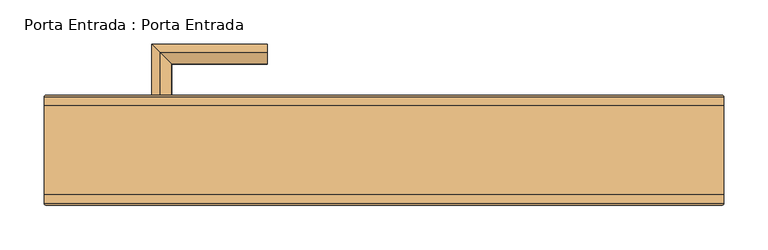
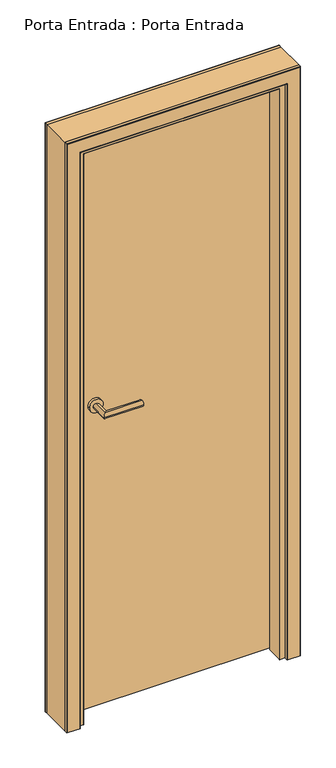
"""IFC4 building model written with IfcOpenShell, lengths in millimetres: door geometry, Porta Entrada : Porta Entrada."""

from ifc_helpers import new_model, si_unit, point, frame, frame_2d, origin, place, context, project, spatial, polyline, circle_curve, ellipse_curve, trimmed, segment, composite_curve, outline, extrude, source, transform, mapped, element, save
from ifc_brep_helpers import plane_surface, cylinder_surface, advanced_brep


def porta_entrada_porta_entrada_e29db034(model_context):
    return source(origin(), model_context, "Body", "SolidModel", [
        extrude(outline(composite_curve([segment(trimmed(circle_curve(frame_2d((1050.0, -251.4999348)), 22.5), [point((1050.0, -228.9999348))], [point((1050.0, -273.9999348))], False, "CARTESIAN"), True, "CONTINUOUS"), segment(trimmed(circle_curve(frame_2d((1050.0, -251.4999348)), 22.5), [point((1050.0, -273.9999348))], [point((1050.0, -228.9999348))], False, "CARTESIAN"), True, "CONTINUOUS")], self_intersect=False)), frame((0.0, 0.0210041, 0.0), z_axis=(0.0, 1.0, 0.0), x_axis=(0.0, 0.0, 1.0)), (0.0, 0.0, 1.0), 9.0),
        advanced_brep(
        [(-262.3121844, 0.0210041, 1050.0), (-253.5621844, 0.0210041, 1059.0214197), (-240.2883371, 0.0210041, 1051.6217874), (-240.2883371, 0.0210041, 1048.3782126), (-253.5621844, 0.0210041, 1040.9785803), (-262.3121844, -61.6703659, 1050.0), (-253.5621844, -52.9203659, 1059.0214197), (-253.5621844, -52.9203659, 1040.9785803), (-131.7133302, -61.6703659, 1050.0), (-131.7133302, -52.9203659, 1040.9785803), (-131.7133302, -39.6465185, 1048.3782126), (-131.7133302, -39.6465185, 1051.6217874), (-131.7133302, -52.9203659, 1059.0214197), (-240.2883371, -39.6465185, 1048.3782126), (-240.2883371, -39.6465185, 1051.6217874)],
        [
            (0, 1, circle_curve(frame((-253.2865551, 0.0210041, 1050.0), z_axis=(0.0, 1.0, 0.0), x_axis=(-1.0, 0.0, 0.0)), 9.0256293)),
            (1, 2, circle_curve(frame((-253.1101677, 0.0210041, 1044.2267939), z_axis=(0.0, 1.0, 0.0), x_axis=(-1.0, 0.0, 0.0)), 14.8015293)),
            (2, 3, circle_curve(frame((-243.1002778, 0.0210041, 1050.0), z_axis=(0.0, 1.0, 0.0), x_axis=(-1.0, 0.0, 0.0)), 3.2461062)),
            (3, 4, circle_curve(frame((-253.1101677, 0.0210041, 1055.7732061), z_axis=(0.0, 1.0, 0.0), x_axis=(-1.0, 0.0, 0.0)), 14.8015293)),
            (4, 0, circle_curve(frame((-253.2865551, 0.0210041, 1050.0), z_axis=(0.0, 1.0, 0.0), x_axis=(-1.0, 0.0, 0.0)), 9.0256293)),
            (0, 5),
            (5, 6, ellipse_curve(frame((-253.2865551, -52.6447366, 1050.0), z_axis=(-0.7071067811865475, 0.7071067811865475, 0.0), x_axis=(0.7071067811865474, 0.7071067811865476, 0.0)), 12.7641674, 9.0256293)),
            (6, 1),
            (4, 7),
            (7, 5, ellipse_curve(frame((-253.2865551, -52.6447366, 1050.0), z_axis=(-0.7071067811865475, 0.7071067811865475, 0.0), x_axis=(0.7071067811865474, 0.7071067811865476, 0.0)), 12.7641674, 9.0256293)),
            (8, 9, circle_curve(frame((-131.7133302, -52.6447366, 1050.0), z_axis=(1.0, 0.0, 0.0), x_axis=(0.0, -1.0, 0.0)), 9.0256293)),
            (9, 10, circle_curve(frame((-131.7133302, -52.4683492, 1055.7732061), z_axis=(1.0, 0.0, 0.0), x_axis=(0.0, -1.0, 0.0)), 14.8015293)),
            (10, 11, circle_curve(frame((-131.7133302, -42.4584593, 1050.0), z_axis=(1.0, 0.0, 0.0), x_axis=(0.0, -1.0, 0.0)), 3.2461062)),
            (11, 12, circle_curve(frame((-131.7133302, -52.4683492, 1044.2267939), z_axis=(1.0, 0.0, 0.0), x_axis=(0.0, -1.0, 0.0)), 14.8015293)),
            (12, 8, circle_curve(frame((-131.7133302, -52.6447366, 1050.0), z_axis=(1.0, 0.0, 0.0), x_axis=(0.0, -1.0, 0.0)), 9.0256293)),
            (5, 8),
            (12, 6),
            (7, 9),
            (3, 13),
            (13, 7, ellipse_curve(frame((-253.1101677, -52.4683492, 1055.7732061), z_axis=(-0.7071067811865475, 0.7071067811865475, 0.0), x_axis=(0.7071067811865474, 0.7071067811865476, 0.0)), 20.9325235, 14.8015293)),
            (2, 14),
            (14, 13, ellipse_curve(frame((-243.1002778, -42.4584593, 1050.0), z_axis=(-0.7071067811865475, 0.7071067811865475, 0.0), x_axis=(0.7071067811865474, 0.7071067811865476, 0.0)), 4.5906874, 3.2461062)),
            (6, 14, ellipse_curve(frame((-253.1101677, -52.4683492, 1044.2267939), z_axis=(-0.7071067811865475, 0.7071067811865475, 0.0), x_axis=(0.7071067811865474, 0.7071067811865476, 0.0)), 20.9325235, 14.8015293)),
            (13, 10),
            (14, 11),
        ],
        [
            plane_surface(frame((-251.4999348, 0.0210041, 1050.0), z_axis=(0.0, 1.0, 0.0), x_axis=(0.0, 0.0, 1.0))),
            cylinder_surface(frame((-253.2865551, 0.0210041, 1050.0), z_axis=(0.0, 1.0, 0.0), x_axis=(-1.0, 0.0, 0.0)), 9.0256293),
            plane_surface(frame((-131.7133302, -50.8581162, 1050.0), z_axis=(1.0, 0.0, 0.0), x_axis=(0.0, 0.0, 1.0))),
            cylinder_surface(frame((-251.4999348, -52.6447366, 1050.0), z_axis=(-1.0, 0.0, 0.0), x_axis=(0.0, -1.0, 0.0)), 9.0256293),
            cylinder_surface(frame((-253.1101677, 0.0210041, 1055.7732061), z_axis=(0.0, 1.0, 0.0), x_axis=(-1.0, 0.0, 0.0)), 14.8015293),
            cylinder_surface(frame((-243.1002778, 0.0210041, 1050.0), z_axis=(0.0, 1.0, 0.0), x_axis=(-1.0, 0.0, 0.0)), 3.2461062),
            cylinder_surface(frame((-253.1101677, 0.0210041, 1044.2267939), z_axis=(0.0, 1.0, 0.0), x_axis=(-1.0, 0.0, 0.0)), 14.8015293),
            cylinder_surface(frame((-251.4999348, -52.4683492, 1055.7732061), z_axis=(-1.0, 0.0, 0.0), x_axis=(0.0, -1.0, 0.0)), 14.8015293),
            cylinder_surface(frame((-251.4999348, -42.4584593, 1050.0), z_axis=(-1.0, 0.0, 0.0), x_axis=(0.0, -1.0, 0.0)), 3.2461062),
            cylinder_surface(frame((-251.4999348, -52.4683492, 1044.2267939), z_axis=(-1.0, 0.0, 0.0), x_axis=(0.0, -1.0, 0.0)), 14.8015293),
        ],
        [
            (0, [[1, 2, 3, 4, 5]]),
            (1, [[6, 7, 8, -1]]),
            (1, [[9, 10, -6, -5]]),
            (2, [[11, 12, 13, 14, 15]]),
            (3, [[16, -15, 17, -7]]),
            (3, [[18, -11, -16, -10]]),
            (4, [[19, 20, -9, -4]]),
            (5, [[21, 22, -19, -3]]),
            (6, [[-8, 23, -21, -2]]),
            (7, [[24, -12, -18, -20]]),
            (8, [[25, -13, -24, -22]]),
            (9, [[-17, -14, -25, -23]]),
        ],
    ),
        extrude(outline(composite_curve([segment(trimmed(circle_curve(frame_2d((1050.0, -251.4999348)), 22.5), [point((1050.0, -228.9999348))], [point((1050.0, -273.9999348))], False, "CARTESIAN"), True, "CONTINUOUS"), segment(trimmed(circle_curve(frame_2d((1050.0, -251.4999348)), 22.5), [point((1050.0, -273.9999348))], [point((1050.0, -228.9999348))], False, "CARTESIAN"), True, "CONTINUOUS")], self_intersect=False)), frame((0.0, 49.0195713, 0.0), z_axis=(0.0, 1.0, 0.0), x_axis=(0.0, 0.0, 1.0)), (0.0, 0.0, 1.0), 9.0),
        advanced_brep(
        [(-262.3121844, 58.0195713, 1050.0), (-253.5621844, 58.0195713, 1040.9785803), (-240.2883371, 58.0195713, 1048.3782126), (-240.2883371, 58.0195713, 1051.6217874), (-253.5621844, 58.0195713, 1059.0214197), (-262.3121844, 119.7109413, 1050.0), (-253.5621844, 110.9609413, 1040.9785803), (-253.5621844, 110.9609413, 1059.0214197), (-131.7133302, 119.7109413, 1050.0), (-131.7133302, 110.9609413, 1059.0214197), (-131.7133302, 97.6870939, 1051.6217874), (-131.7133302, 97.6870939, 1048.3782126), (-131.7133302, 110.9609413, 1040.9785803), (-240.2883371, 97.6870939, 1051.6217874), (-240.2883371, 97.6870939, 1048.3782126)],
        [
            (0, 1, circle_curve(frame((-253.2865551, 58.0195713, 1050.0), z_axis=(0.0, -1.0, 0.0), x_axis=(-1.0, 0.0, 0.0)), 9.0256293)),
            (1, 2, circle_curve(frame((-253.1101677, 58.0195713, 1055.7732061), z_axis=(0.0, -1.0, 0.0), x_axis=(-1.0, 0.0, 0.0)), 14.8015293)),
            (2, 3, circle_curve(frame((-243.1002778, 58.0195713, 1050.0), z_axis=(0.0, -1.0, 0.0), x_axis=(-1.0, 0.0, 0.0)), 3.2461062)),
            (3, 4, circle_curve(frame((-253.1101677, 58.0195713, 1044.2267939), z_axis=(0.0, -1.0, 0.0), x_axis=(-1.0, 0.0, 0.0)), 14.8015293)),
            (4, 0, circle_curve(frame((-253.2865551, 58.0195713, 1050.0), z_axis=(0.0, -1.0, 0.0), x_axis=(-1.0, 0.0, 0.0)), 9.0256293)),
            (0, 5),
            (5, 6, ellipse_curve(frame((-253.2865551, 110.685312, 1050.0), z_axis=(-0.7071067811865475, -0.7071067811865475, 0.0), x_axis=(0.7071067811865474, -0.7071067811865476, 0.0)), 12.7641674, 9.0256293)),
            (6, 1),
            (4, 7),
            (7, 5, ellipse_curve(frame((-253.2865551, 110.685312, 1050.0), z_axis=(-0.7071067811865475, -0.7071067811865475, 0.0), x_axis=(0.7071067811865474, -0.7071067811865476, 0.0)), 12.7641674, 9.0256293)),
            (8, 9, circle_curve(frame((-131.7133302, 110.685312, 1050.0), z_axis=(1.0, 0.0, 0.0), x_axis=(0.0, 1.0, 0.0)), 9.0256293)),
            (9, 10, circle_curve(frame((-131.7133302, 110.5089246, 1044.2267939), z_axis=(1.0, 0.0, 0.0), x_axis=(0.0, 1.0, 0.0)), 14.8015293)),
            (10, 11, circle_curve(frame((-131.7133302, 100.4990347, 1050.0), z_axis=(1.0, 0.0, 0.0), x_axis=(0.0, 1.0, 0.0)), 3.2461062)),
            (11, 12, circle_curve(frame((-131.7133302, 110.5089246, 1055.7732061), z_axis=(1.0, 0.0, 0.0), x_axis=(0.0, 1.0, 0.0)), 14.8015293)),
            (12, 8, circle_curve(frame((-131.7133302, 110.685312, 1050.0), z_axis=(1.0, 0.0, 0.0), x_axis=(0.0, 1.0, 0.0)), 9.0256293)),
            (5, 8),
            (12, 6),
            (7, 9),
            (3, 13),
            (13, 7, ellipse_curve(frame((-253.1101677, 110.5089246, 1044.2267939), z_axis=(-0.7071067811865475, -0.7071067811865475, 0.0), x_axis=(0.7071067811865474, -0.7071067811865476, 0.0)), 20.9325235, 14.8015293)),
            (2, 14),
            (14, 13, ellipse_curve(frame((-243.1002778, 100.4990347, 1050.0), z_axis=(-0.7071067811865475, -0.7071067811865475, 0.0), x_axis=(0.7071067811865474, -0.7071067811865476, 0.0)), 4.5906874, 3.2461062)),
            (6, 14, ellipse_curve(frame((-253.1101677, 110.5089246, 1055.7732061), z_axis=(-0.7071067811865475, -0.7071067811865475, 0.0), x_axis=(0.7071067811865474, -0.7071067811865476, 0.0)), 20.9325235, 14.8015293)),
            (13, 10),
            (14, 11),
        ],
        [
            plane_surface(frame((-251.4999348, 58.0195713, 1050.0), z_axis=(0.0, -1.0, 0.0), x_axis=(0.0, 0.0, -1.0))),
            cylinder_surface(frame((-253.2865551, 58.0195713, 1050.0), z_axis=(0.0, -1.0, 0.0), x_axis=(-1.0, 0.0, 0.0)), 9.0256293),
            plane_surface(frame((-131.7133302, 108.8986916, 1050.0), z_axis=(1.0, 0.0, 0.0), x_axis=(0.0, 0.0, -1.0))),
            cylinder_surface(frame((-251.4999348, 110.685312, 1050.0), z_axis=(-1.0, 0.0, 0.0), x_axis=(0.0, 1.0, 0.0)), 9.0256293),
            cylinder_surface(frame((-253.1101677, 58.0195713, 1044.2267939), z_axis=(0.0, -1.0, 0.0), x_axis=(-1.0, 0.0, 0.0)), 14.8015293),
            cylinder_surface(frame((-243.1002778, 58.0195713, 1050.0), z_axis=(0.0, -1.0, 0.0), x_axis=(-1.0, 0.0, 0.0)), 3.2461062),
            cylinder_surface(frame((-253.1101677, 58.0195713, 1055.7732061), z_axis=(0.0, -1.0, 0.0), x_axis=(-1.0, 0.0, 0.0)), 14.8015293),
            cylinder_surface(frame((-251.4999348, 110.5089246, 1044.2267939), z_axis=(-1.0, 0.0, 0.0), x_axis=(0.0, 1.0, 0.0)), 14.8015293),
            cylinder_surface(frame((-251.4999348, 100.4990347, 1050.0), z_axis=(-1.0, 0.0, 0.0), x_axis=(0.0, 1.0, 0.0)), 3.2461062),
            cylinder_surface(frame((-251.4999348, 110.5089246, 1055.7732061), z_axis=(-1.0, 0.0, 0.0), x_axis=(0.0, 1.0, 0.0)), 14.8015293),
        ],
        [
            (0, [[1, 2, 3, 4, 5]]),
            (1, [[6, 7, 8, -1]]),
            (1, [[9, 10, -6, -5]]),
            (2, [[11, 12, 13, 14, 15]]),
            (3, [[16, -15, 17, -7]]),
            (3, [[18, -11, -16, -10]]),
            (4, [[19, 20, -9, -4]]),
            (5, [[21, 22, -19, -3]]),
            (6, [[-8, 23, -21, -2]]),
            (7, [[24, -12, -18, -20]]),
            (8, [[25, -13, -24, -22]]),
            (9, [[-17, -14, -25, -23]]),
        ],
    ),
        extrude(outline(polyline([(0.0, -350.0), (2006.5, -350.0), (2006.5, 350.0), (0.0, 350.0), (0.0, 384.0009959), (2040.5009959, 384.0009959), (2040.5009959, -384.0009959), (0.0, -384.0009959), (0.0, -350.0)])), frame((0.0, -50.0, 0.0), z_axis=(0.0, 1.0, 0.0), x_axis=(0.0, 0.0, 1.0)), (0.0, 0.0, 1.0), 100.0),
        extrude(outline(polyline([(328.2381716, 9.0210041), (-328.2381716, 9.0210041), (-328.729808, 9.8139325), (-329.9347489, 48.1557733), (-329.4715845, 49.0195713), (329.4715845, 49.0195713), (329.9347489, 48.1557733), (328.729808, 9.8139325), (328.2381716, 9.0210041)])), frame((0.0, 0.0, 4.5068497), z_axis=(0.0, 0.0, 1.0), x_axis=(1.0, 0.0, 0.0)), (0.0, 0.0, 1.0), 1976.0133601),
        advanced_brep(
        [(-350.0, 50.0, 0.0), (-384.0000121, 50.0, 0.0), (-384.0000121, 60.2, 0.0), (-382.2000121, 62.0, 0.0), (-340.8000121, 62.0, 0.0), (-339.0000121, 60.2, 0.0), (-339.0000121, 50.0, 0.0), (-333.500507, 50.0, 0.0), (-332.001079, 48.4585793, 0.0), (-332.001079, 6.0, 0.0), (-321.4999348, 6.0, 0.0), (-321.4999348, -48.5, 0.0), (-322.9999348, -50.0, 0.0), (-339.0000121, -50.0, 0.0), (-339.0000121, -60.2, 0.0), (-340.8000121, -62.0, 0.0), (-382.2000121, -62.0, 0.0), (-384.0000121, -60.2, 0.0), (-384.0000121, -50.0, 0.0), (-350.0, -50.0, 0.0), (-350.0, -50.0, 2006.5), (-350.0, 50.0, 2006.5), (-384.0000121, -50.0, 2040.5000121), (384.0000121, -50.0, 2040.5000121), (384.0000121, -50.0, 0.0), (350.0, -50.0, 0.0), (350.0, -50.0, 2006.5), (-384.0000121, -60.2, 2040.5000121), (-382.2000121, -62.0, 2038.7000121), (-340.8000121, -62.0, 1997.3000121), (340.8000121, -62.0, 1997.3000121), (340.8000121, -62.0, 0.0), (382.2000121, -62.0, 0.0), (382.2000121, -62.0, 2038.7000121), (-339.0000121, -60.2, 1995.5000121), (-339.0000121, -50.0, 1995.5000121), (-322.9999348, -50.0, 1979.4999348), (322.9999348, -50.0, 1979.4999348), (322.9999348, -50.0, 0.0), (339.0000121, -50.0, 0.0), (339.0000121, -50.0, 1995.5000121), (-321.4999348, -48.5, 1977.9999348), (-321.4999348, 6.0, 1977.9999348), (-332.001079, 6.0, 1988.501079), (332.001079, 6.0, 1988.501079), (332.001079, 6.0, 0.0), (321.4999348, 6.0, 0.0), (321.4999348, 6.0, 1977.9999348), (-332.001079, 48.4585793, 1988.501079), (-333.500507, 50.0, 1990.000507), (-339.0000121, 50.0, 1995.5000121), (339.0000121, 50.0, 1995.5000121), (339.0000121, 50.0, 0.0), (333.500507, 50.0, 0.0), (333.500507, 50.0, 1990.000507), (-339.0000121, 60.2, 1995.5000121), (-340.8000121, 62.0, 1997.3000121), (-382.2000121, 62.0, 2038.7000121), (382.2000121, 62.0, 2038.7000121), (382.2000121, 62.0, 0.0), (340.8000121, 62.0, 0.0), (340.8000121, 62.0, 1997.3000121), (-384.0000121, 60.2, 2040.5000121), (-384.0000121, 50.0, 2040.5000121), (350.0, 50.0, 2006.5), (350.0, 50.0, 0.0), (384.0000121, 50.0, 0.0), (384.0000121, 50.0, 2040.5000121), (384.0000121, -60.2, 0.0), (339.0000121, -60.2, 0.0), (321.4999348, -48.5, 0.0), (332.001079, 48.4585793, 0.0), (339.0000121, 60.2, 0.0), (384.0000121, 60.2, 0.0), (384.0000121, 60.2, 2040.5000121), (339.0000121, 60.2, 1995.5000121), (332.001079, 48.4585793, 1988.501079), (321.4999348, -48.5, 1977.9999348), (339.0000121, -60.2, 1995.5000121), (384.0000121, -60.2, 2040.5000121)],
        [
            (0, 1),
            (1, 2),
            (2, 3, circle_curve(frame((-382.2000121, 60.2, 0.0), z_axis=(0.0, 0.0, -1.0), x_axis=(-1.0, 0.0, 0.0)), 1.8)),
            (3, 4),
            (4, 5, circle_curve(frame((-340.8000121, 60.2, 0.0), z_axis=(0.0, 0.0, -1.0), x_axis=(-1.0, 0.0, 0.0)), 1.8)),
            (5, 6),
            (6, 7),
            (7, 8, circle_curve(frame((-333.500507, 48.5, 0.0), z_axis=(0.0, 0.0, -1.0), x_axis=(-1.0, 0.0, 0.0)), 1.5)),
            (8, 9),
            (9, 10),
            (10, 11),
            (11, 12, circle_curve(frame((-322.9999348, -48.5, 0.0), z_axis=(0.0, 0.0, -1.0), x_axis=(-1.0, 0.0, 0.0)), 1.5)),
            (12, 13),
            (13, 14),
            (14, 15, circle_curve(frame((-340.8000121, -60.2, 0.0), z_axis=(0.0, 0.0, -1.0), x_axis=(-1.0, 0.0, 0.0)), 1.8)),
            (15, 16),
            (16, 17, circle_curve(frame((-382.2000121, -60.2, 0.0), z_axis=(0.0, 0.0, -1.0), x_axis=(-1.0, 0.0, 0.0)), 1.8)),
            (17, 18),
            (18, 19),
            (19, 0),
            (19, 20),
            (20, 21),
            (21, 0),
            (18, 22),
            (22, 23),
            (23, 24),
            (24, 25),
            (25, 26),
            (26, 20),
            (17, 27),
            (27, 22),
            (16, 28),
            (28, 27, ellipse_curve(frame((-382.2000121, -60.2, 2038.7000121), z_axis=(-0.7071067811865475, 0.0, -0.7071067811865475), x_axis=(0.7071067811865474, 0.0, -0.7071067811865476)), 2.5455844, 1.8)),
            (15, 29),
            (29, 30),
            (30, 31),
            (31, 32),
            (32, 33),
            (33, 28),
            (14, 34),
            (34, 29, ellipse_curve(frame((-340.8000121, -60.2, 1997.3000121), z_axis=(-0.7071067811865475, 0.0, -0.7071067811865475), x_axis=(0.7071067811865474, 0.0, -0.7071067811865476)), 2.5455844, 1.8)),
            (13, 35),
            (35, 34),
            (12, 36),
            (36, 37),
            (37, 38),
            (38, 39),
            (39, 40),
            (40, 35),
            (11, 41),
            (41, 36, ellipse_curve(frame((-322.9999348, -48.5, 1979.4999348), z_axis=(-0.7071067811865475, 0.0, -0.7071067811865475), x_axis=(0.7071067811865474, 0.0, -0.7071067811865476)), 2.1213203, 1.5)),
            (10, 42),
            (42, 41),
            (9, 43),
            (43, 44),
            (44, 45),
            (45, 46),
            (46, 47),
            (47, 42),
            (8, 48),
            (48, 43),
            (7, 49),
            (49, 48, ellipse_curve(frame((-333.500507, 48.5, 1990.000507), z_axis=(-0.7071067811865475, 0.0, -0.7071067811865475), x_axis=(0.7071067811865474, 0.0, -0.7071067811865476)), 2.1213203, 1.5)),
            (6, 50),
            (50, 51),
            (51, 52),
            (52, 53),
            (53, 54),
            (54, 49),
            (5, 55),
            (55, 50),
            (4, 56),
            (56, 55, ellipse_curve(frame((-340.8000121, 60.2, 1997.3000121), z_axis=(-0.7071067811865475, 0.0, -0.7071067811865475), x_axis=(0.7071067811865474, 0.0, -0.7071067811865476)), 2.5455844, 1.8)),
            (3, 57),
            (57, 58),
            (58, 59),
            (59, 60),
            (60, 61),
            (61, 56),
            (2, 62),
            (62, 57, ellipse_curve(frame((-382.2000121, 60.2, 2038.7000121), z_axis=(-0.7071067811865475, 0.0, -0.7071067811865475), x_axis=(0.7071067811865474, 0.0, -0.7071067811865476)), 2.5455844, 1.8)),
            (1, 63),
            (63, 62),
            (21, 64),
            (64, 65),
            (65, 66),
            (66, 67),
            (67, 63),
            (65, 25),
            (24, 68),
            (68, 32, circle_curve(frame((382.2000121, -60.2, 0.0), z_axis=(0.0, 0.0, -1.0), x_axis=(1.0, 0.0, 0.0)), 1.8)),
            (31, 69, circle_curve(frame((340.8000121, -60.2, 0.0), z_axis=(0.0, 0.0, -1.0), x_axis=(1.0, 0.0, 0.0)), 1.8)),
            (69, 39),
            (38, 70, circle_curve(frame((322.9999348, -48.5, 0.0), z_axis=(0.0, 0.0, -1.0), x_axis=(1.0, 0.0, 0.0)), 1.5)),
            (70, 46),
            (45, 71),
            (71, 53, circle_curve(frame((333.500507, 48.5, 0.0), z_axis=(0.0, 0.0, -1.0), x_axis=(1.0, 0.0, 0.0)), 1.5)),
            (52, 72),
            (72, 60, circle_curve(frame((340.8000121, 60.2, 0.0), z_axis=(0.0, 0.0, -1.0), x_axis=(1.0, 0.0, 0.0)), 1.8)),
            (59, 73, circle_curve(frame((382.2000121, 60.2, 0.0), z_axis=(0.0, 0.0, -1.0), x_axis=(1.0, 0.0, 0.0)), 1.8)),
            (73, 66),
            (73, 74),
            (74, 67),
            (58, 74, ellipse_curve(frame((382.2000121, 60.2, 2038.7000121), z_axis=(0.7071067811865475, 0.0, -0.7071067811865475), x_axis=(0.7071067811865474, 0.0, 0.7071067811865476)), 2.5455844, 1.8)),
            (72, 75),
            (75, 61, ellipse_curve(frame((340.8000121, 60.2, 1997.3000121), z_axis=(0.7071067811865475, 0.0, -0.7071067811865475), x_axis=(0.7071067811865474, 0.0, 0.7071067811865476)), 2.5455844, 1.8)),
            (51, 75),
            (71, 76),
            (76, 54, ellipse_curve(frame((333.500507, 48.5, 1990.000507), z_axis=(0.7071067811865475, 0.0, -0.7071067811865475), x_axis=(0.7071067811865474, 0.0, 0.7071067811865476)), 2.1213203, 1.5)),
            (44, 76),
            (70, 77),
            (77, 47),
            (37, 77, ellipse_curve(frame((322.9999348, -48.5, 1979.4999348), z_axis=(0.7071067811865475, 0.0, -0.7071067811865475), x_axis=(0.7071067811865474, 0.0, 0.7071067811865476)), 2.1213203, 1.5)),
            (69, 78),
            (78, 40),
            (30, 78, ellipse_curve(frame((340.8000121, -60.2, 1997.3000121), z_axis=(0.7071067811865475, 0.0, -0.7071067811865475), x_axis=(0.7071067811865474, 0.0, 0.7071067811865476)), 2.5455844, 1.8)),
            (68, 79),
            (79, 33, ellipse_curve(frame((382.2000121, -60.2, 2038.7000121), z_axis=(0.7071067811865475, 0.0, -0.7071067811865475), x_axis=(0.7071067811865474, 0.0, 0.7071067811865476)), 2.5455844, 1.8)),
            (23, 79),
            (64, 26),
            (41, 77),
            (48, 76),
            (27, 79),
            (34, 78),
            (55, 75),
            (62, 74),
        ],
        [
            plane_surface(frame((-384.0009959, 50.0, 0.0), z_axis=(0.0, 0.0, -1.0), x_axis=(0.0, 1.0, 0.0))),
            plane_surface(frame((-350.0, 50.0, 0.0), z_axis=(-1.0, 0.0, 0.0), x_axis=(0.0, 0.0, 1.0))),
            plane_surface(frame((-350.0, -50.0, 0.0), z_axis=(0.0, 1.0, 0.0), x_axis=(0.0, 0.0, 1.0))),
            plane_surface(frame((-384.0000121, -50.0, 0.0), z_axis=(-1.0, 0.0, 0.0), x_axis=(0.0, 0.0, 1.0))),
            cylinder_surface(frame((-382.2000121, -60.2, 0.0), z_axis=(0.0, 0.0, -1.0), x_axis=(-1.0, 0.0, 0.0)), 1.8),
            plane_surface(frame((-382.2000121, -62.0, 0.0), z_axis=(0.0, -1.0, 0.0), x_axis=(0.0, 0.0, 1.0))),
            cylinder_surface(frame((-340.8000121, -60.2, 0.0), z_axis=(0.0, 0.0, -1.0), x_axis=(-1.0, 0.0, 0.0)), 1.8),
            plane_surface(frame((-339.0000121, -60.2, 0.0), z_axis=(1.0, 0.0, 0.0), x_axis=(0.0, 0.0, 1.0))),
            plane_surface(frame((-339.0000121, -50.0, 0.0), z_axis=(0.0, -1.0, 0.0), x_axis=(0.0, 0.0, 1.0))),
            cylinder_surface(frame((-322.9999348, -48.5, 0.0), z_axis=(0.0, 0.0, -1.0), x_axis=(-1.0, 0.0, 0.0)), 1.5),
            plane_surface(frame((-321.4999348, -48.5, 0.0), z_axis=(1.0, 0.0, 0.0), x_axis=(0.0, 0.0, 1.0))),
            plane_surface(frame((-321.4999348, 6.0, 0.0), z_axis=(0.0, 1.0, 0.0), x_axis=(0.0, 0.0, 1.0))),
            plane_surface(frame((-332.001079, 6.0, 0.0), z_axis=(1.0, 0.0, 0.0), x_axis=(0.0, 0.0, 1.0))),
            cylinder_surface(frame((-333.500507, 48.5, 0.0), z_axis=(0.0, 0.0, -1.0), x_axis=(-1.0, 0.0, 0.0)), 1.5),
            plane_surface(frame((-333.500507, 50.0, 0.0), z_axis=(0.0, 1.0, 0.0), x_axis=(0.0, 0.0, 1.0))),
            plane_surface(frame((-339.0000121, 50.0, 0.0), z_axis=(1.0, 0.0, 0.0), x_axis=(0.0, 0.0, 1.0))),
            cylinder_surface(frame((-340.8000121, 60.2, 0.0), z_axis=(0.0, 0.0, -1.0), x_axis=(-1.0, 0.0, 0.0)), 1.8),
            plane_surface(frame((-340.8000121, 62.0, 0.0), z_axis=(0.0, 1.0, 0.0), x_axis=(0.0, 0.0, 1.0))),
            cylinder_surface(frame((-382.2000121, 60.2, 0.0), z_axis=(0.0, 0.0, -1.0), x_axis=(-1.0, 0.0, 0.0)), 1.8),
            plane_surface(frame((-384.0000121, 60.2, 0.0), z_axis=(-1.0, 0.0, 0.0), x_axis=(0.0, 0.0, 1.0))),
            plane_surface(frame((-384.0000121, 50.0, 0.0), z_axis=(0.0, -1.0, 0.0), x_axis=(0.0, 0.0, 1.0))),
            plane_surface(frame((384.0009959, 50.0, 0.0), z_axis=(0.0, 0.0, -1.0), x_axis=(0.0, 1.0, 0.0))),
            plane_surface(frame((384.0000121, 60.2, 2040.5000121), z_axis=(1.0, 0.0, 0.0), x_axis=(0.0, 0.0, -1.0))),
            cylinder_surface(frame((382.2000121, 60.2, 2040.5009959), z_axis=(0.0, 0.0, 1.0), x_axis=(1.0, 0.0, 0.0)), 1.8),
            cylinder_surface(frame((340.8000121, 60.2, 2040.5009959), z_axis=(0.0, 0.0, 1.0), x_axis=(1.0, 0.0, 0.0)), 1.8),
            plane_surface(frame((339.0000121, 50.0, 1995.5000121), z_axis=(-1.0, 0.0, 0.0), x_axis=(0.0, 0.0, -1.0))),
            cylinder_surface(frame((333.500507, 48.5, 2040.5009959), z_axis=(0.0, 0.0, 1.0), x_axis=(1.0, 0.0, 0.0)), 1.5),
            plane_surface(frame((332.001079, 6.0, 1988.501079), z_axis=(-1.0, 0.0, 0.0), x_axis=(0.0, 0.0, -1.0))),
            plane_surface(frame((321.4999348, -48.5, 1977.9999348), z_axis=(-1.0, 0.0, 0.0), x_axis=(0.0, 0.0, -1.0))),
            cylinder_surface(frame((322.9999348, -48.5, 2040.5009959), z_axis=(0.0, 0.0, 1.0), x_axis=(1.0, 0.0, 0.0)), 1.5),
            plane_surface(frame((339.0000121, -60.2, 1995.5000121), z_axis=(-1.0, 0.0, 0.0), x_axis=(0.0, 0.0, -1.0))),
            cylinder_surface(frame((340.8000121, -60.2, 2040.5009959), z_axis=(0.0, 0.0, 1.0), x_axis=(1.0, 0.0, 0.0)), 1.8),
            cylinder_surface(frame((382.2000121, -60.2, 2040.5009959), z_axis=(0.0, 0.0, 1.0), x_axis=(1.0, 0.0, 0.0)), 1.8),
            plane_surface(frame((384.0000121, -50.0, 2040.5000121), z_axis=(1.0, 0.0, 0.0), x_axis=(0.0, 0.0, -1.0))),
            plane_surface(frame((350.0, 50.0, 2006.5), z_axis=(1.0, 0.0, 0.0), x_axis=(0.0, 0.0, -1.0))),
            cylinder_surface(frame((-384.0009959, -48.5, 1979.4999348), z_axis=(-1.0, 0.0, 0.0), x_axis=(0.0, 0.0, 1.0)), 1.5),
            plane_surface(frame((-321.4999348, -48.5, 1977.9999348), z_axis=(0.0, 0.0, -1.0), x_axis=(1.0, 0.0, 0.0))),
            plane_surface(frame((-332.001079, 6.0, 1988.501079), z_axis=(0.0, 0.0, -1.0), x_axis=(1.0, 0.0, 0.0))),
            cylinder_surface(frame((-384.0009959, 48.5, 1990.000507), z_axis=(-1.0, 0.0, 0.0), x_axis=(0.0, 0.0, 1.0)), 1.5),
            plane_surface(frame((-350.0, 50.0, 2006.5), z_axis=(0.0, 0.0, 1.0), x_axis=(1.0, 0.0, 0.0))),
            plane_surface(frame((-384.0000121, -50.0, 2040.5000121), z_axis=(0.0, 0.0, 1.0), x_axis=(1.0, 0.0, 0.0))),
            cylinder_surface(frame((-384.0009959, -60.2, 2038.7000121), z_axis=(-1.0, 0.0, 0.0), x_axis=(0.0, 0.0, 1.0)), 1.8),
            cylinder_surface(frame((-384.0009959, -60.2, 1997.3000121), z_axis=(-1.0, 0.0, 0.0), x_axis=(0.0, 0.0, 1.0)), 1.8),
            plane_surface(frame((-339.0000121, -60.2, 1995.5000121), z_axis=(0.0, 0.0, -1.0), x_axis=(1.0, 0.0, 0.0))),
            plane_surface(frame((-339.0000121, 50.0, 1995.5000121), z_axis=(0.0, 0.0, -1.0), x_axis=(1.0, 0.0, 0.0))),
            cylinder_surface(frame((-384.0009959, 60.2, 1997.3000121), z_axis=(-1.0, 0.0, 0.0), x_axis=(0.0, 0.0, 1.0)), 1.8),
            cylinder_surface(frame((-384.0009959, 60.2, 2038.7000121), z_axis=(-1.0, 0.0, 0.0), x_axis=(0.0, 0.0, 1.0)), 1.8),
            plane_surface(frame((-384.0000121, 60.2, 2040.5000121), z_axis=(0.0, 0.0, 1.0), x_axis=(1.0, 0.0, 0.0))),
        ],
        [
            (0, [[1, 2, 3, 4, 5, 6, 7, 8, 9, 10, 11, 12, 13, 14, 15, 16, 17, 18, 19, 20]]),
            (1, [[21, 22, 23, -20]]),
            (2, [[24, 25, 26, 27, 28, 29, -21, -19]]),
            (3, [[30, 31, -24, -18]]),
            (4, [[32, 33, -30, -17]]),
            (5, [[34, 35, 36, 37, 38, 39, -32, -16]]),
            (6, [[40, 41, -34, -15]]),
            (7, [[42, 43, -40, -14]]),
            (8, [[44, 45, 46, 47, 48, 49, -42, -13]]),
            (9, [[50, 51, -44, -12]]),
            (10, [[52, 53, -50, -11]]),
            (11, [[54, 55, 56, 57, 58, 59, -52, -10]]),
            (12, [[60, 61, -54, -9]]),
            (13, [[62, 63, -60, -8]]),
            (14, [[64, 65, 66, 67, 68, 69, -62, -7]]),
            (15, [[70, 71, -64, -6]]),
            (16, [[72, 73, -70, -5]]),
            (17, [[74, 75, 76, 77, 78, 79, -72, -4]]),
            (18, [[80, 81, -74, -3]]),
            (19, [[82, 83, -80, -2]]),
            (20, [[-23, 84, 85, 86, 87, 88, -82, -1]]),
            (21, [[89, -27, 90, 91, -37, 92, 93, -47, 94, 95, -57, 96, 97, -67, 98, 99, -77, 100, 101, -86]]),
            (22, [[-87, -101, 102, 103]]),
            (23, [[-102, -100, -76, 104]]),
            (24, [[-78, -99, 105, 106]]),
            (25, [[-105, -98, -66, 107]]),
            (26, [[-68, -97, 108, 109]]),
            (27, [[-108, -96, -56, 110]]),
            (28, [[-58, -95, 111, 112]]),
            (29, [[-111, -94, -46, 113]]),
            (30, [[-48, -93, 114, 115]]),
            (31, [[-114, -92, -36, 116]]),
            (32, [[-38, -91, 117, 118]]),
            (33, [[-117, -90, -26, 119]]),
            (34, [[-28, -89, -85, 120]]),
            (35, [[121, -113, -45, -51]]),
            (36, [[-59, -112, -121, -53]]),
            (37, [[122, -110, -55, -61]]),
            (38, [[-69, -109, -122, -63]]),
            (39, [[-29, -120, -84, -22]]),
            (40, [[123, -119, -25, -31]]),
            (41, [[-39, -118, -123, -33]]),
            (42, [[124, -116, -35, -41]]),
            (43, [[-49, -115, -124, -43]]),
            (44, [[125, -107, -65, -71]]),
            (45, [[-79, -106, -125, -73]]),
            (46, [[126, -104, -75, -81]]),
            (47, [[-88, -103, -126, -83]]),
        ],
    ),
    ])


if __name__ == "__main__":
    model = new_model("IFC4")
    model_context = context("Model", 3, world=origin())
    ifc_project = project(units=[si_unit("LENGTHUNIT", "METRE", prefix="MILLI")], contexts=[model_context])
    site = spatial("IfcSite", under=ifc_project)
    building = spatial("IfcBuilding", under=site)
    placement = place(None, origin())
    porta_entrada_porta_entrada_shape = porta_entrada_porta_entrada_e29db034(model_context)
    element("IfcDoor", 1, ObjectType="Porta Entrada : Porta Entrada", at=placement, inside=building, context=model_context, shape_type="MappedRepresentation", body=[
        mapped(porta_entrada_porta_entrada_shape, transform((0.0, 0.0, 0.0), x_axis=(1.0, 0.0, 0.0), y_axis=(0.0, 1.0, 0.0), z_axis=(0.0, 0.0, 1.0))),
    ])
    save(model, "model.ifc")
